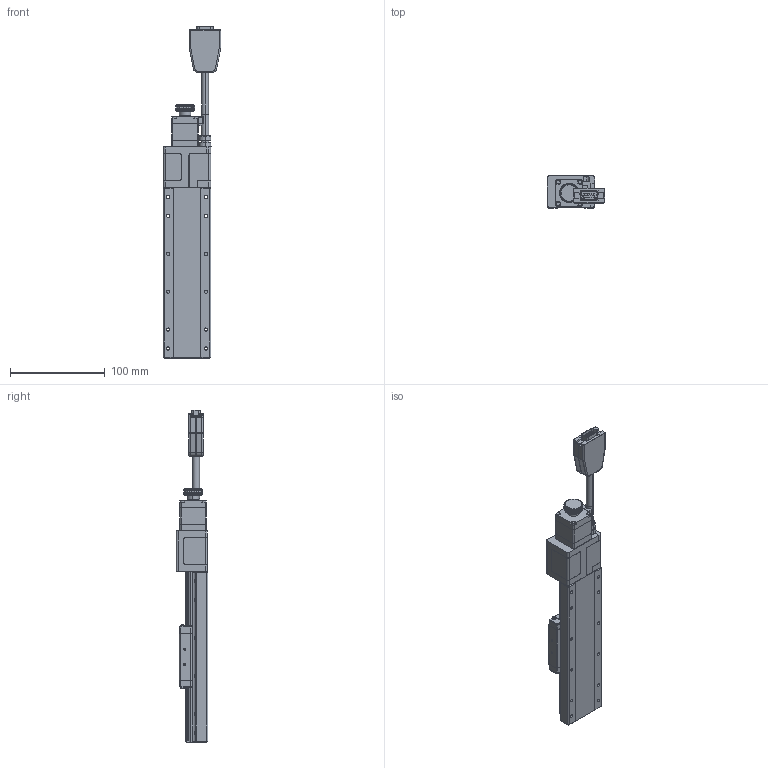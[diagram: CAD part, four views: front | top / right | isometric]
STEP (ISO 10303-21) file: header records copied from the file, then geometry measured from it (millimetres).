
FILE_DESCRIPTION (( 'STEP AP203' ), '1' );
FILE_NAME ('CXN50100-S2?N.STEP', '2023-09-26T01:44:43', ( '' ), ( '' ), 'SwSTEP 2.0', 'SolidWorks 2019', '' );
FILE_SCHEMA (( 'CONFIG_CONTROL_DESIGN' ));
Products named in the file (3): CXN50100-S2?N; Group1^CXN50100-S2?N_GMT; Group2^CXN50100-S2?N_GMT
Assembly tree (2 placements, depth 2):
  CXN50100-S2?N
    Group1^CXN50100-S2?N_GMT
    Group2^CXN50100-S2?N_GMT
Bounding box: 60.5 x 33.5 x 350.6 mm (x, y, z)
Volume: 30667.9 mm3; surface area: 96972.1 mm2
Topology: 1 solids, 6 shells, 3683 faces, 9647 edges, 5946 vertices
Faces by surface type: plane 1750, cylinder 1023, torus 342, bspline 282, cone 178, sphere 108
Entity records: 124579 total; most frequent: CARTESIAN_POINT 36338, ORIENTED_EDGE 18974, DIRECTION 17820, EDGE_CURVE 9487, AXIS2_PLACEMENT_3D 6431, VERTEX_POINT 5945, LINE 4958, VECTOR 4958
